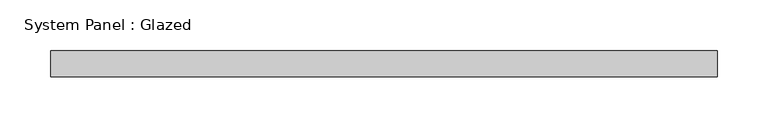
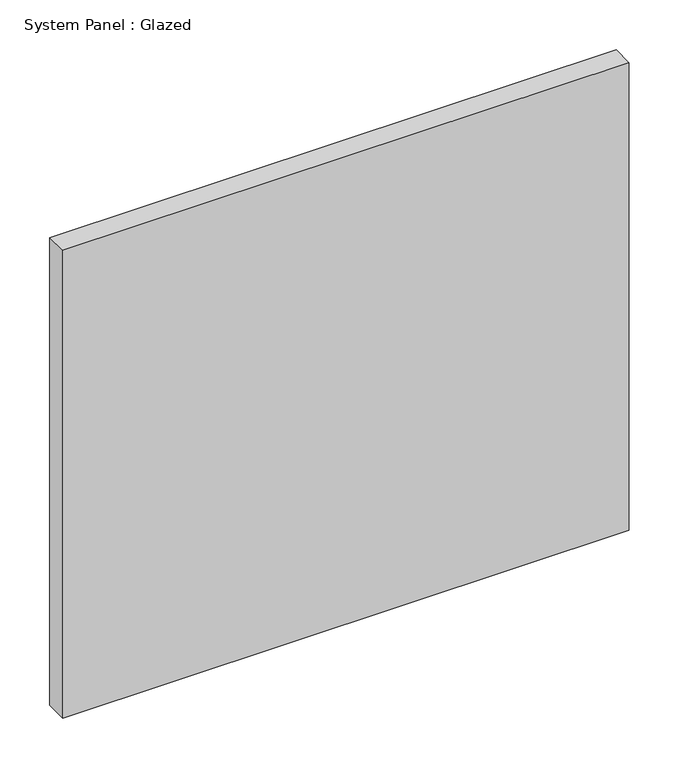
"""IFC4 building model written with IfcOpenShell, lengths in millimetres: plate geometry, System Panel : Glazed."""

from ifc_helpers import new_model, si_unit, origin, origin_with_axes, place, context, project, spatial, polyline, outline, extrude, source, transform, mapped, element, save


def system_panel_glazed_6e301024(model_context):
    return source(origin(), model_context, "Body", "SweptSolid", [
        extrude(outline(polyline([(327.3201314, 19.05), (-327.3201314, 19.05), (-327.3201314, 44.45), (327.3201314, 44.45), (327.3201314, 19.05)])), origin_with_axes(), (0.0, 0.0, 1.0), 571.5),
    ])


if __name__ == "__main__":
    model = new_model("IFC4")
    model_context = context("Model", 3, world=origin())
    ifc_project = project(units=[si_unit("LENGTHUNIT", "METRE", prefix="MILLI")], contexts=[model_context])
    site = spatial("IfcSite", under=ifc_project)
    building = spatial("IfcBuilding", under=site)
    placement = place(None, origin())
    system_panel_glazed_shape = system_panel_glazed_6e301024(model_context)
    element("IfcPlate", 1, ObjectType="System Panel : Glazed", at=placement, inside=building, context=model_context, shape_type="MappedRepresentation", body=[
        mapped(system_panel_glazed_shape, transform((0.0, 0.0, 0.0), x_axis=(1.0, 0.0, 0.0), y_axis=(0.0, 1.0, 0.0), z_axis=(0.0, 0.0, 1.0))),
    ])
    save(model, "model.ifc")
